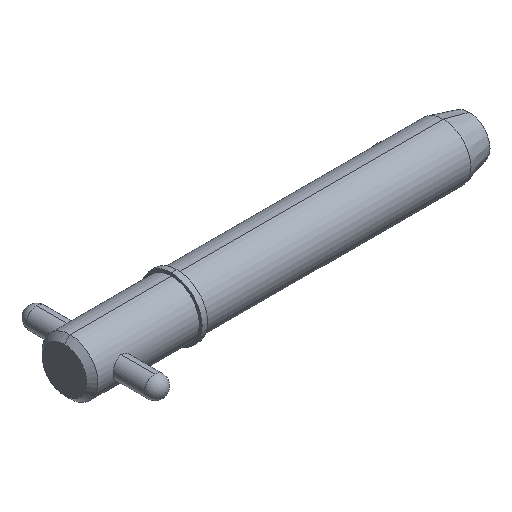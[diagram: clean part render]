
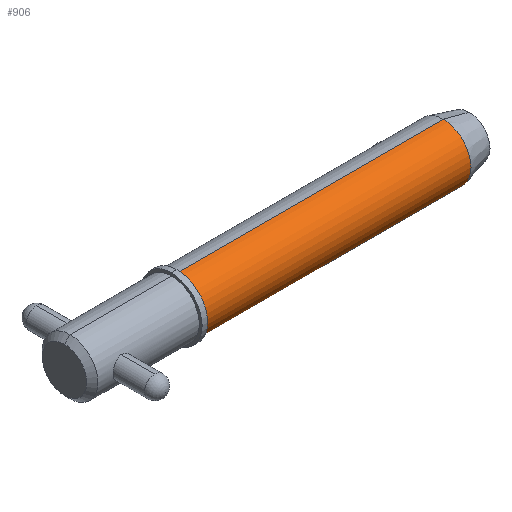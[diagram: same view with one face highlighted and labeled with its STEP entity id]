
A CAD part, isometric view. The second image highlights one B-rep face of the part: STEP entity #906.
In plain terms, the highlighted cylindrical face has radius 6.35 mm (diameter 12.7 mm), a partial arc.
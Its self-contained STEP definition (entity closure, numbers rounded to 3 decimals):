
#28 = ORIENTED_EDGE ( 'NONE', *, *, #169, .F. ) ;
#30 = EDGE_CURVE ( 'NONE', #650, #138, #663, .T. ) ;
#46 = ORIENTED_EDGE ( 'NONE', *, *, #197, .T. ) ;
#66 = VERTEX_POINT ( 'NONE', #241 ) ;
#138 = VERTEX_POINT ( 'NONE', #279 ) ;
#169 = EDGE_CURVE ( 'NONE', #138, #66, #407, .T. ) ;
#197 = EDGE_CURVE ( 'NONE', #1054, #66, #354, .T. ) ;
#207 = ORIENTED_EDGE ( 'NONE', *, *, #448, .T. ) ;
#235 = DIRECTION ( 'NONE',  ( 0., 0., -1. ) ) ;
#241 = CARTESIAN_POINT ( 'NONE',  ( 86.455, 0., -6.35 ) ) ;
#279 = CARTESIAN_POINT ( 'NONE',  ( 86.455, 0., 6.35 ) ) ;
#348 = CARTESIAN_POINT ( 'NONE',  ( 25.7, 0., -6.35 ) ) ;
#354 = LINE ( 'NONE', #684, #784 ) ;
#357 = CIRCLE ( 'NONE', #528, 6.35 ) ;
#386 = DIRECTION ( 'NONE',  ( 0., 0., -1. ) ) ;
#407 = CIRCLE ( 'NONE', #565, 6.35 ) ;
#408 = EDGE_LOOP ( 'NONE', ( #898, #207, #46, #28 ) ) ;
#437 = DIRECTION ( 'NONE',  ( 0., 0., -1. ) ) ;
#448 = EDGE_CURVE ( 'NONE', #650, #1054, #357, .T. ) ;
#470 = CARTESIAN_POINT ( 'NONE',  ( 0., 0., 0. ) ) ;
#479 = AXIS2_PLACEMENT_3D ( 'NONE', #470, #962, #386 ) ;
#495 = VECTOR ( 'NONE', #1049, 1000. ) ;
#517 = DIRECTION ( 'NONE',  ( 1., 0., 0. ) ) ;
#528 = AXIS2_PLACEMENT_3D ( 'NONE', #806, #975, #235 ) ;
#565 = AXIS2_PLACEMENT_3D ( 'NONE', #911, #517, #437 ) ;
#589 = DIRECTION ( 'NONE',  ( 1., 0., 0. ) ) ;
#650 = VERTEX_POINT ( 'NONE', #908 ) ;
#663 = LINE ( 'NONE', #987, #495 ) ;
#684 = CARTESIAN_POINT ( 'NONE',  ( 0., 0., -6.35 ) ) ;
#784 = VECTOR ( 'NONE', #589, 1000. ) ;
#806 = CARTESIAN_POINT ( 'NONE',  ( 25.7, 0., 0. ) ) ;
#898 = ORIENTED_EDGE ( 'NONE', *, *, #30, .F. ) ;
#906 = ADVANCED_FACE ( 'NONE', ( #979 ), #967, .T. ) ;
#908 = CARTESIAN_POINT ( 'NONE',  ( 25.7, 0., 6.35 ) ) ;
#911 = CARTESIAN_POINT ( 'NONE',  ( 86.455, 0., 0. ) ) ;
#962 = DIRECTION ( 'NONE',  ( 1., 0., 0. ) ) ;
#967 = CYLINDRICAL_SURFACE ( 'NONE', #479, 6.35 ) ;
#975 = DIRECTION ( 'NONE',  ( 1., 0., 0. ) ) ;
#979 = FACE_OUTER_BOUND ( 'NONE', #408, .T. ) ;
#987 = CARTESIAN_POINT ( 'NONE',  ( 0., 0., 6.35 ) ) ;
#1049 = DIRECTION ( 'NONE',  ( 1., 0., 0. ) ) ;
#1054 = VERTEX_POINT ( 'NONE', #348 ) ;
